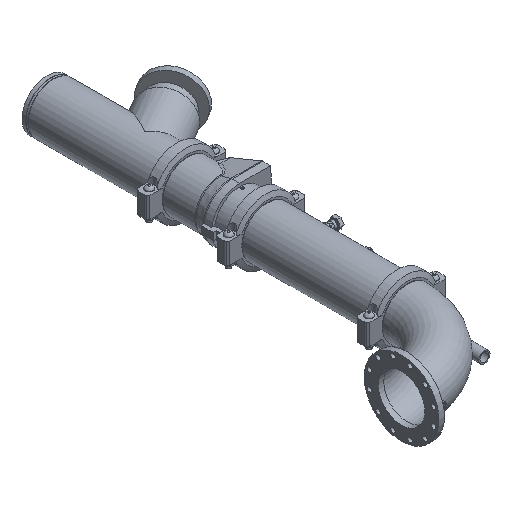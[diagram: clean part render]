
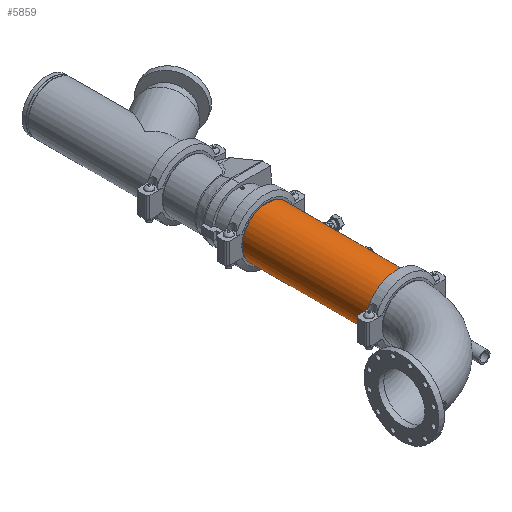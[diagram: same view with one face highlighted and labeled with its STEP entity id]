
A CAD part, isometric view. The second image highlights one B-rep face of the part: STEP entity #5859.
In plain terms, the highlighted cylindrical face has radius 136.525 mm (diameter 273.05 mm), a full revolution.
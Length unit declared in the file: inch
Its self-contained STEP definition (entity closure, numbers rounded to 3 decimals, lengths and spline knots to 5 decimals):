
#149=LINE('',#8932,#569);
#569=VECTOR('',#7106,5.375);
#989=CYLINDRICAL_SURFACE('',#6380,5.375);
#1200=FACE_OUTER_BOUND('',#1532,.T.);
#1532=EDGE_LOOP('',(#3697,#3698,#3699,#3700,#3701,#3702));
#1958=CIRCLE('',#6378,5.375);
#1959=CIRCLE('',#6379,5.375);
#1960=CIRCLE('',#6381,5.375);
#1961=CIRCLE('',#6382,5.375);
#2304=VERTEX_POINT('',#8923);
#2305=VERTEX_POINT('',#8924);
#2306=VERTEX_POINT('',#8928);
#2307=VERTEX_POINT('',#8929);
#2869=EDGE_CURVE('',#2304,#2305,#1958,.T.);
#2870=EDGE_CURVE('',#2305,#2304,#1959,.T.);
#2871=EDGE_CURVE('',#2306,#2307,#1960,.T.);
#2872=EDGE_CURVE('',#2307,#2306,#1961,.T.);
#2873=EDGE_CURVE('',#2307,#2305,#149,.T.);
#3697=ORIENTED_EDGE('',*,*,#2871,.F.);
#3698=ORIENTED_EDGE('',*,*,#2872,.F.);
#3699=ORIENTED_EDGE('',*,*,#2873,.T.);
#3700=ORIENTED_EDGE('',*,*,#2870,.T.);
#3701=ORIENTED_EDGE('',*,*,#2869,.T.);
#3702=ORIENTED_EDGE('',*,*,#2873,.F.);
#5859=ADVANCED_FACE('',(#1200),#989,.T.);
#6378=AXIS2_PLACEMENT_3D('',#8925,#7096,#7097);
#6379=AXIS2_PLACEMENT_3D('',#8926,#7098,#7099);
#6380=AXIS2_PLACEMENT_3D('',#8927,#7100,#7101);
#6381=AXIS2_PLACEMENT_3D('',#8930,#7102,#7103);
#6382=AXIS2_PLACEMENT_3D('',#8931,#7104,#7105);
#7096=DIRECTION('center_axis',(1.,0.,0.));
#7097=DIRECTION('ref_axis',(0.,0.,-1.));
#7098=DIRECTION('center_axis',(1.,0.,0.));
#7099=DIRECTION('ref_axis',(0.,0.,-1.));
#7100=DIRECTION('center_axis',(1.,0.,0.));
#7101=DIRECTION('ref_axis',(0.,1.,0.));
#7102=DIRECTION('center_axis',(1.,0.,0.));
#7103=DIRECTION('ref_axis',(0.,0.,-1.));
#7104=DIRECTION('center_axis',(1.,0.,0.));
#7105=DIRECTION('ref_axis',(0.,0.,-1.));
#7106=DIRECTION('',(-1.,0.,0.));
#8923=CARTESIAN_POINT('',(-13.77725,5.375,0.));
#8924=CARTESIAN_POINT('',(-13.77725,-5.375,0.));
#8925=CARTESIAN_POINT('Origin',(-13.77725,0.,0.));
#8926=CARTESIAN_POINT('Origin',(-13.77725,0.,0.));
#8927=CARTESIAN_POINT('Origin',(0.,0.,0.));
#8928=CARTESIAN_POINT('',(13.77725,5.375,0.));
#8929=CARTESIAN_POINT('',(13.77725,-5.375,0.));
#8930=CARTESIAN_POINT('Origin',(13.77725,0.,0.));
#8931=CARTESIAN_POINT('Origin',(13.77725,0.,0.));
#8932=CARTESIAN_POINT('',(0.,-5.375,0.));
